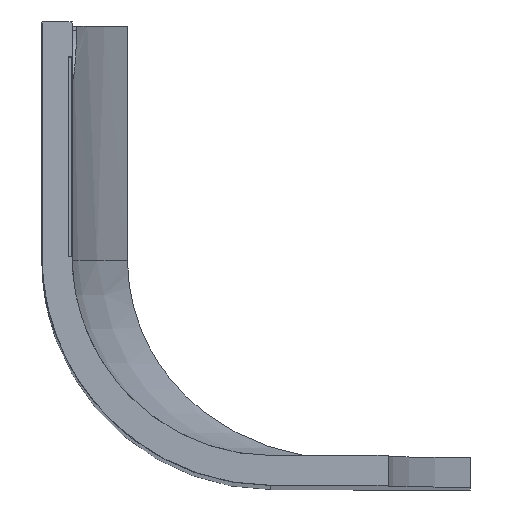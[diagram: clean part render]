
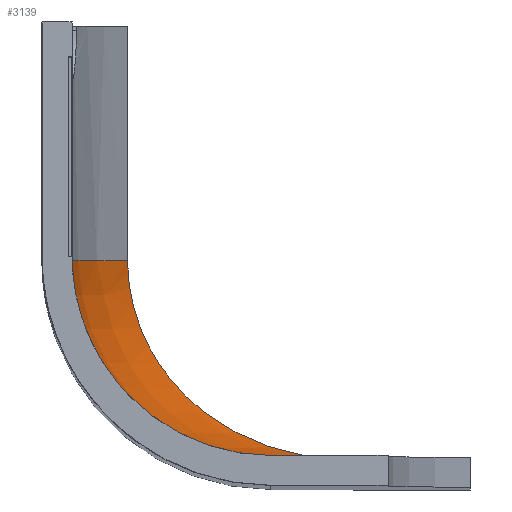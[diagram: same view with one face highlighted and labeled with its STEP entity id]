
A CAD part, top view. The second image highlights one B-rep face of the part: STEP entity #3139.
In plain terms, the highlighted toroidal (fillet/blend) face has major radius 20 mm and minor radius 8 mm.
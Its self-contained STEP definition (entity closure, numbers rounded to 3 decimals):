
#341 = CYLINDRICAL_SURFACE('',#342,8.);
#342 = AXIS2_PLACEMENT_3D('',#343,#344,#345);
#343 = CARTESIAN_POINT('',(-36.,-5.2,47.));
#344 = DIRECTION('',(-0.,-0.,-1.));
#345 = DIRECTION('',(0.,-1.,0.));
#823 = PLANE('',#824);
#824 = AXIS2_PLACEMENT_3D('',#825,#826,#827);
#825 = CARTESIAN_POINT('',(-50.,-16.,-58.));
#826 = DIRECTION('',(0.,0.,1.));
#827 = DIRECTION('',(1.,0.,0.));
#905 = CYLINDRICAL_SURFACE('',#906,28.);
#906 = AXIS2_PLACEMENT_3D('',#907,#908,#909);
#907 = CARTESIAN_POINT('',(-16.,-13.2,-47.));
#908 = DIRECTION('',(0.,1.,0.));
#909 = DIRECTION('',(-1.,0.,0.));
#1285 = VERTEX_POINT('',#1286);
#1286 = CARTESIAN_POINT('',(-36.,-13.2,-47.));
#1300 = PLANE('',#1301);
#1301 = AXIS2_PLACEMENT_3D('',#1302,#1303,#1304);
#1302 = CARTESIAN_POINT('',(-44.,-13.2,-75.));
#1303 = DIRECTION('',(0.,1.,0.));
#1304 = DIRECTION('',(0.,-0.,1.));
#1519 = VERTEX_POINT('',#1520);
#1520 = CARTESIAN_POINT('',(-44.,-5.2,-47.));
#1541 = EDGE_CURVE('',#1285,#1519,#1542,.T.);
#1542 = SURFACE_CURVE('',#1543,(#1548,#1554),.PCURVE_S1.);
#1543 = CIRCLE('',#1544,8.);
#1544 = AXIS2_PLACEMENT_3D('',#1545,#1546,#1547);
#1545 = CARTESIAN_POINT('',(-36.,-5.2,-47.));
#1546 = DIRECTION('',(-0.,-0.,-1.));
#1547 = DIRECTION('',(0.,-1.,0.));
#1548 = PCURVE('',#341,#1549);
#1549 = DEFINITIONAL_REPRESENTATION('',(#1550),#1553);
#1550 = B_SPLINE_CURVE_WITH_KNOTS('',1,(#1551,#1552),.UNSPECIFIED.,.F.,
  .F.,(2,2),(0.,1.571),.PIECEWISE_BEZIER_KNOTS.);
#1551 = CARTESIAN_POINT('',(0.,94.));
#1552 = CARTESIAN_POINT('',(1.571,94.));
#1553 = ( GEOMETRIC_REPRESENTATION_CONTEXT(2) 
PARAMETRIC_REPRESENTATION_CONTEXT() REPRESENTATION_CONTEXT('2D SPACE',''
  ) );
#1554 = PCURVE('',#1555,#1560);
#1555 = TOROIDAL_SURFACE('',#1556,20.,8.);
#1556 = AXIS2_PLACEMENT_3D('',#1557,#1558,#1559);
#1557 = CARTESIAN_POINT('',(-16.,-5.2,-47.));
#1558 = DIRECTION('',(0.,1.,0.));
#1559 = DIRECTION('',(-1.,0.,0.));
#1560 = DEFINITIONAL_REPRESENTATION('',(#1561),#1564);
#1561 = B_SPLINE_CURVE_WITH_KNOTS('',1,(#1562,#1563),.UNSPECIFIED.,.F.,
  .F.,(2,2),(0.,1.571),.PIECEWISE_BEZIER_KNOTS.);
#1562 = CARTESIAN_POINT('',(6.283,4.712));
#1563 = CARTESIAN_POINT('',(6.283,6.283));
#1564 = ( GEOMETRIC_REPRESENTATION_CONTEXT(2) 
PARAMETRIC_REPRESENTATION_CONTEXT() REPRESENTATION_CONTEXT('2D SPACE',''
  ) );
#2150 = VERTEX_POINT('',#2151);
#2151 = CARTESIAN_POINT('',(-32.703,-13.2,-58.));
#2170 = EDGE_CURVE('',#2150,#2171,#2173,.T.);
#2171 = VERTEX_POINT('',#2172);
#2172 = CARTESIAN_POINT('',(-41.749,-5.2,-58.));
#2173 = SURFACE_CURVE('',#2174,(#2201,#2231),.PCURVE_S1.);
#2174 = B_SPLINE_CURVE_WITH_KNOTS('',7,(#2175,#2176,#2177,#2178,#2179,
    #2180,#2181,#2182,#2183,#2184,#2185,#2186,#2187,#2188,#2189,#2190,
    #2191,#2192,#2193,#2194,#2195,#2196,#2197,#2198,#2199,#2200),
  .UNSPECIFIED.,.F.,.F.,(8,6,6,6,8),(0.,0.37,0.577,
    0.708,1.),.UNSPECIFIED.);
#2175 = CARTESIAN_POINT('',(-32.703,-13.2,-58.));
#2176 = CARTESIAN_POINT('',(-33.415,-13.2,-58.));
#2177 = CARTESIAN_POINT('',(-34.127,-13.148,-58.));
#2178 = CARTESIAN_POINT('',(-34.835,-13.042,-58.));
#2179 = CARTESIAN_POINT('',(-35.532,-12.88,-58.));
#2180 = CARTESIAN_POINT('',(-36.213,-12.659,-58.));
#2181 = CARTESIAN_POINT('',(-36.871,-12.379,-58.));
#2182 = CARTESIAN_POINT('',(-37.846,-11.852,-58.));
#2183 = CARTESIAN_POINT('',(-38.185,-11.646,-58.));
#2184 = CARTESIAN_POINT('',(-38.513,-11.422,-58.));
#2185 = CARTESIAN_POINT('',(-38.828,-11.181,-58.));
#2186 = CARTESIAN_POINT('',(-39.13,-10.922,-58.));
#2187 = CARTESIAN_POINT('',(-39.417,-10.647,-58.));
#2188 = CARTESIAN_POINT('',(-39.858,-10.173,-58.));
#2189 = CARTESIAN_POINT('',(-40.023,-9.982,-58.));
#2190 = CARTESIAN_POINT('',(-40.181,-9.785,-58.));
#2191 = CARTESIAN_POINT('',(-40.331,-9.582,-58.));
#2192 = CARTESIAN_POINT('',(-40.474,-9.374,-58.));
#2193 = CARTESIAN_POINT('',(-40.608,-9.161,-58.));
#2194 = CARTESIAN_POINT('',(-41.016,-8.458,-58.));
#2195 = CARTESIAN_POINT('',(-41.255,-7.949,-58.));
#2196 = CARTESIAN_POINT('',(-41.451,-7.42,-58.));
#2197 = CARTESIAN_POINT('',(-41.599,-6.876,-58.));
#2198 = CARTESIAN_POINT('',(-41.699,-6.321,-58.));
#2199 = CARTESIAN_POINT('',(-41.749,-5.76,-58.));
#2200 = CARTESIAN_POINT('',(-41.749,-5.2,-58.));
#2201 = PCURVE('',#823,#2202);
#2202 = DEFINITIONAL_REPRESENTATION('',(#2203),#2230);
#2203 = B_SPLINE_CURVE_WITH_KNOTS('',7,(#2204,#2205,#2206,#2207,#2208,
    #2209,#2210,#2211,#2212,#2213,#2214,#2215,#2216,#2217,#2218,#2219,
    #2220,#2221,#2222,#2223,#2224,#2225,#2226,#2227,#2228,#2229),
  .UNSPECIFIED.,.F.,.F.,(8,6,6,6,8),(0.,0.37,0.577,
    0.708,1.),.UNSPECIFIED.);
#2204 = CARTESIAN_POINT('',(17.297,2.8));
#2205 = CARTESIAN_POINT('',(16.585,2.8));
#2206 = CARTESIAN_POINT('',(15.873,2.852));
#2207 = CARTESIAN_POINT('',(15.165,2.958));
#2208 = CARTESIAN_POINT('',(14.468,3.12));
#2209 = CARTESIAN_POINT('',(13.787,3.341));
#2210 = CARTESIAN_POINT('',(13.129,3.621));
#2211 = CARTESIAN_POINT('',(12.154,4.148));
#2212 = CARTESIAN_POINT('',(11.815,4.354));
#2213 = CARTESIAN_POINT('',(11.487,4.578));
#2214 = CARTESIAN_POINT('',(11.172,4.819));
#2215 = CARTESIAN_POINT('',(10.87,5.078));
#2216 = CARTESIAN_POINT('',(10.583,5.353));
#2217 = CARTESIAN_POINT('',(10.142,5.827));
#2218 = CARTESIAN_POINT('',(9.977,6.018));
#2219 = CARTESIAN_POINT('',(9.819,6.215));
#2220 = CARTESIAN_POINT('',(9.669,6.418));
#2221 = CARTESIAN_POINT('',(9.526,6.626));
#2222 = CARTESIAN_POINT('',(9.392,6.839));
#2223 = CARTESIAN_POINT('',(8.984,7.542));
#2224 = CARTESIAN_POINT('',(8.745,8.051));
#2225 = CARTESIAN_POINT('',(8.549,8.58));
#2226 = CARTESIAN_POINT('',(8.401,9.124));
#2227 = CARTESIAN_POINT('',(8.301,9.679));
#2228 = CARTESIAN_POINT('',(8.251,10.24));
#2229 = CARTESIAN_POINT('',(8.251,10.8));
#2230 = ( GEOMETRIC_REPRESENTATION_CONTEXT(2) 
PARAMETRIC_REPRESENTATION_CONTEXT() REPRESENTATION_CONTEXT('2D SPACE',''
  ) );
#2231 = PCURVE('',#1555,#2232);
#2232 = DEFINITIONAL_REPRESENTATION('',(#2233),#2260);
#2233 = B_SPLINE_CURVE_WITH_KNOTS('',7,(#2234,#2235,#2236,#2237,#2238,
    #2239,#2240,#2241,#2242,#2243,#2244,#2245,#2246,#2247,#2248,#2249,
    #2250,#2251,#2252,#2253,#2254,#2255,#2256,#2257,#2258,#2259),
  .UNSPECIFIED.,.F.,.F.,(8,6,6,6,8),(0.,0.37,0.577,
    0.708,1.),.UNSPECIFIED.);
#2234 = CARTESIAN_POINT('',(5.701,4.712));
#2235 = CARTESIAN_POINT('',(5.72,4.787));
#2236 = CARTESIAN_POINT('',(5.739,4.862));
#2237 = CARTESIAN_POINT('',(5.756,4.939));
#2238 = CARTESIAN_POINT('',(5.771,5.017));
#2239 = CARTESIAN_POINT('',(5.785,5.096));
#2240 = CARTESIAN_POINT('',(5.798,5.176));
#2241 = CARTESIAN_POINT('',(5.817,5.303));
#2242 = CARTESIAN_POINT('',(5.823,5.349));
#2243 = CARTESIAN_POINT('',(5.829,5.395));
#2244 = CARTESIAN_POINT('',(5.834,5.441));
#2245 = CARTESIAN_POINT('',(5.839,5.488));
#2246 = CARTESIAN_POINT('',(5.844,5.535));
#2247 = CARTESIAN_POINT('',(5.851,5.613));
#2248 = CARTESIAN_POINT('',(5.854,5.643));
#2249 = CARTESIAN_POINT('',(5.856,5.674));
#2250 = CARTESIAN_POINT('',(5.859,5.704));
#2251 = CARTESIAN_POINT('',(5.861,5.735));
#2252 = CARTESIAN_POINT('',(5.863,5.765));
#2253 = CARTESIAN_POINT('',(5.869,5.865));
#2254 = CARTESIAN_POINT('',(5.872,5.934));
#2255 = CARTESIAN_POINT('',(5.875,6.003));
#2256 = CARTESIAN_POINT('',(5.877,6.073));
#2257 = CARTESIAN_POINT('',(5.879,6.143));
#2258 = CARTESIAN_POINT('',(5.879,6.213));
#2259 = CARTESIAN_POINT('',(5.879,6.283));
#2260 = ( GEOMETRIC_REPRESENTATION_CONTEXT(2) 
PARAMETRIC_REPRESENTATION_CONTEXT() REPRESENTATION_CONTEXT('2D SPACE',''
  ) );
#2471 = EDGE_CURVE('',#1519,#2171,#2472,.T.);
#2472 = SURFACE_CURVE('',#2473,(#2478,#2485),.PCURVE_S1.);
#2473 = CIRCLE('',#2474,28.);
#2474 = AXIS2_PLACEMENT_3D('',#2475,#2476,#2477);
#2475 = CARTESIAN_POINT('',(-16.,-5.2,-47.));
#2476 = DIRECTION('',(-0.,-1.,-0.));
#2477 = DIRECTION('',(-1.,0.,0.));
#2478 = PCURVE('',#905,#2479);
#2479 = DEFINITIONAL_REPRESENTATION('',(#2480),#2484);
#2480 = LINE('',#2481,#2482);
#2481 = CARTESIAN_POINT('',(6.283,8.));
#2482 = VECTOR('',#2483,1.);
#2483 = DIRECTION('',(-1.,0.));
#2484 = ( GEOMETRIC_REPRESENTATION_CONTEXT(2) 
PARAMETRIC_REPRESENTATION_CONTEXT() REPRESENTATION_CONTEXT('2D SPACE',''
  ) );
#2485 = PCURVE('',#1555,#2486);
#2486 = DEFINITIONAL_REPRESENTATION('',(#2487),#2491);
#2487 = LINE('',#2488,#2489);
#2488 = CARTESIAN_POINT('',(6.283,6.283));
#2489 = VECTOR('',#2490,1.);
#2490 = DIRECTION('',(-1.,0.));
#2491 = ( GEOMETRIC_REPRESENTATION_CONTEXT(2) 
PARAMETRIC_REPRESENTATION_CONTEXT() REPRESENTATION_CONTEXT('2D SPACE',''
  ) );
#2672 = EDGE_CURVE('',#1285,#2150,#2673,.T.);
#2673 = SURFACE_CURVE('',#2674,(#2679,#2690),.PCURVE_S1.);
#2674 = CIRCLE('',#2675,20.);
#2675 = AXIS2_PLACEMENT_3D('',#2676,#2677,#2678);
#2676 = CARTESIAN_POINT('',(-16.,-13.2,-47.));
#2677 = DIRECTION('',(-0.,-1.,-0.));
#2678 = DIRECTION('',(-1.,0.,0.));
#2679 = PCURVE('',#1300,#2680);
#2680 = DEFINITIONAL_REPRESENTATION('',(#2681),#2689);
#2681 = ( BOUNDED_CURVE() B_SPLINE_CURVE(2,(#2682,#2683,#2684,#2685,
#2686,#2687,#2688),.UNSPECIFIED.,.T.,.F.) B_SPLINE_CURVE_WITH_KNOTS((1,2
    ,2,2,2,1),(-2.094,0.,2.094,4.189,
6.283,8.378),.UNSPECIFIED.) CURVE() 
GEOMETRIC_REPRESENTATION_ITEM() RATIONAL_B_SPLINE_CURVE((1.,0.5,1.,0.5,
1.,0.5,1.)) REPRESENTATION_ITEM('') );
#2682 = CARTESIAN_POINT('',(28.,8.));
#2683 = CARTESIAN_POINT('',(-6.641,8.));
#2684 = CARTESIAN_POINT('',(10.679,38.));
#2685 = CARTESIAN_POINT('',(28.,68.));
#2686 = CARTESIAN_POINT('',(45.321,38.));
#2687 = CARTESIAN_POINT('',(62.641,8.));
#2688 = CARTESIAN_POINT('',(28.,8.));
#2689 = ( GEOMETRIC_REPRESENTATION_CONTEXT(2) 
PARAMETRIC_REPRESENTATION_CONTEXT() REPRESENTATION_CONTEXT('2D SPACE',''
  ) );
#2690 = PCURVE('',#1555,#2691);
#2691 = DEFINITIONAL_REPRESENTATION('',(#2692),#2696);
#2692 = LINE('',#2693,#2694);
#2693 = CARTESIAN_POINT('',(6.283,4.712));
#2694 = VECTOR('',#2695,1.);
#2695 = DIRECTION('',(-1.,0.));
#2696 = ( GEOMETRIC_REPRESENTATION_CONTEXT(2) 
PARAMETRIC_REPRESENTATION_CONTEXT() REPRESENTATION_CONTEXT('2D SPACE',''
  ) );
#3139 = ADVANCED_FACE('',(#3140),#1555,.F.);
#3140 = FACE_BOUND('',#3141,.F.);
#3141 = EDGE_LOOP('',(#3142,#3143,#3144,#3145));
#3142 = ORIENTED_EDGE('',*,*,#1541,.T.);
#3143 = ORIENTED_EDGE('',*,*,#2471,.T.);
#3144 = ORIENTED_EDGE('',*,*,#2170,.F.);
#3145 = ORIENTED_EDGE('',*,*,#2672,.F.);
